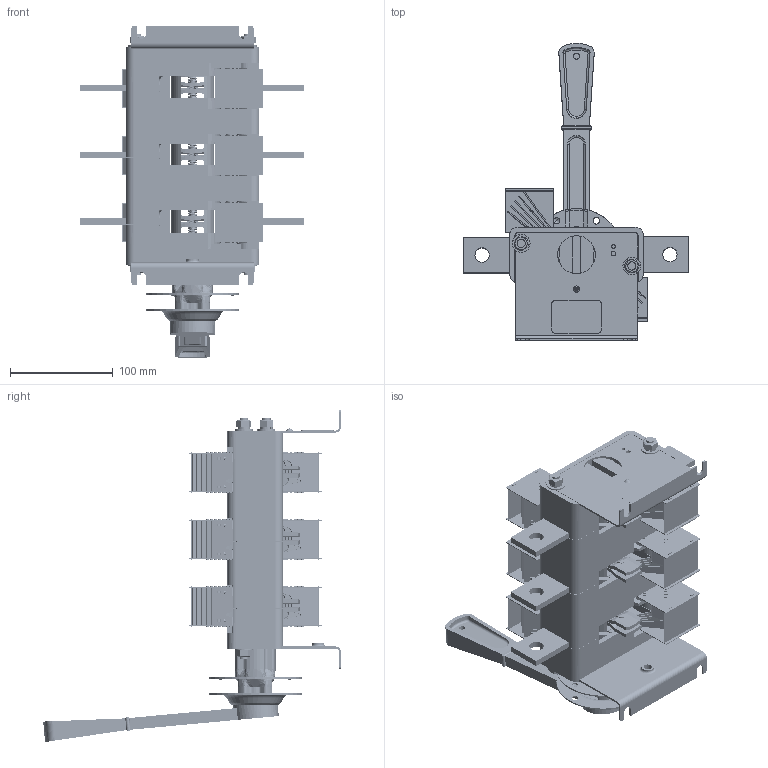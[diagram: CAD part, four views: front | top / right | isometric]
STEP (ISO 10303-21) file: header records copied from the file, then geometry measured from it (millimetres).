
FILE_DESCRIPTION (( 'STEP AP214' ), '1' );
FILE_NAME ('ﾂﾐ32-39ﾔ ﾃﾆﾈﾊ.642523.009-01 (ﾂ31250-630ﾀ).STEP', '2022-07-14T13:03:04', ( '' ), ( '' ), 'SwSTEP 2.0', 'SolidWorks 2018', '' );
FILE_SCHEMA (( 'AUTOMOTIVE_DESIGN' ));
Length unit declared in the file: millimetre
Products named in the file (40): ﾘ琺矜 ﾃﾆﾈﾊ.758491.059; Êîðïóñ ñðåäíèé ÃÆÈÊ.735384.049; Ðóêîÿòêà_ÃÆÈÊ.303658.011_-01 (á¡®àª ); Òàáëè÷êà äëÿ ñáîðêè ÷èñòàÿ áîëüøàÿ; 想囫蜩磬_闷仁.745355.017; ﾐ飼璢_ﾃﾆﾈﾊ.303733.004_-01 (癸ｮ爼); ﾂ鏆鮏 ﾃﾆﾈﾊ.745485.006; 买箅赅 闷仁.713141.011; 暑痫篑 镳噔 闷仁.735384.048; Áîêîâèíà ëåâàÿ ÃÆÈÊ.735224.029_-01(à¥§ì¡ ); ﾂﾐ32-39ﾔ ﾃﾆﾈﾊ.642523.009-01 (ﾂ31250-630ﾀ); 剜獒郷闷仁.758491.058; ﾘ琺矜 8 65ﾃ 016; 锐牮钽囫栩咫黖闷仁.741271.008; 噪囗弼 闷仁.712378.002_-01 (帷獱); Ãàéêà 2Ì8-6Í.5.016; 羊屙赅_闷仁.741226.004; Êîðïóñ ëåâûé ÃÆÈÊ.735384.050; ﾏ跖浯 ﾃﾆﾈﾊ.753553.013_-01 (癸ｮ爼); 想囫蜩磬_闷仁.745355.016; ﾏ跖浯_ﾃﾆﾈﾊ.753553.012_-01 (癸ｮ爼); Òàáëè÷êà äëÿ ñáîðêè ÷èñòàÿ; 殃钺郷闷仁.745326.026_-01 (帷獱); 澡犟囹铕 忄豚 闷仁.745484.008.SLDDRW; Êîíòàêò ïîäâèæíûé_ÃÆÈÊ.745355.014; ﾂ琿 ﾃﾆﾈﾊ.715274.004; Øïèëüêà Ì8 ÃÆÈÊ.758292.006; 抔樖罻; Êàìåðà äóãîãàñèòåëüíàÿ ÃÆÈÊ.686431.026_-01 (á¡®àª ); 务黖闷仁.715411.020; 想囫蜩磬_闷仁.745355.018_-01 (帷獱); Îáîëî÷êà_630À; ﾘ琺矜_ﾃﾆﾈﾊ.758491.057_-01 (癸ｮ爼); Áîêîâèíà ïðàâàÿ_ÃÆÈÊ.735224.028; Èñêðîãàñèòåëü_ÃÆÈÊ.741271.008_-01 (®â¢¥àáâ¨ï); 想囫蜩磬_闷仁.745355.015_-01 (帷獱); Êîíòàêò ïîäâèæíûé ÃÆÈÊ.685179.146; 锐牮钽囫栩咫黖闷仁.686433.004_-01 (帷獱); ﾘ琺矜 8 ﾃﾆﾈﾊ.758491.024; 澡犟囹铕_闷仁.745484.007
Assembly tree (74 placements, depth 4):
  ﾂﾐ32-39ﾔ ﾃﾆﾈﾊ.642523.009-01 (ﾂ31250-630ﾀ)
    Êîðïóñ ëåâûé ÃÆÈÊ.735384.050
    暑痫篑 镳噔 闷仁.735384.048
    Êîðïóñ ñðåäíèé ÃÆÈÊ.735384.049  x2
    ﾂ琿 ﾃﾆﾈﾊ.715274.004
    Êîíòàêò ïîäâèæíûé ÃÆÈÊ.685179.146  x3
      想囫蜩磬_闷仁.745355.016
      务黖闷仁.715411.020
      Êîíòàêò ïîäâèæíûé_ÃÆÈÊ.745355.014
      澡犟囹铕_闷仁.745484.007
      ﾏ跖浯_ﾃﾆﾈﾊ.753553.012_-01 (癸ｮ爼)
    Áîêîâèíà ëåâàÿ ÃÆÈÊ.735224.029_-01(à¥§ì¡ )
    Áîêîâèíà ïðàâàÿ_ÃÆÈÊ.735224.028
    澡犟囹铕 忄豚 闷仁.745484.008.SLDDRW  x2
    ﾏ跖浯 ﾃﾆﾈﾊ.753553.013_-01 (癸ｮ爼)  x2
    Øïèëüêà Ì8 ÃÆÈÊ.758292.006  x2
    Ãàéêà 2Ì8-6Í.5.016  x4
    ﾘ琺矜 8 65ﾃ 016  x2
    Êàìåðà äóãîãàñèòåëüíàÿ ÃÆÈÊ.686431.026_-01 (á¡®àª )  x6
      想囫蜩磬_闷仁.745355.017
      羊屙赅_闷仁.741226.004
      锐牮钽囫栩咫黖闷仁.686433.004_-01 (帷獱)
        殃钺郷闷仁.745326.026_-01 (帷獱)  x2
        Èñêðîãàñèòåëü_ÃÆÈÊ.741271.008_-01 (®â¢¥àáâ¨ï)
        抔樖罻  x2
      锐牮钽囫栩咫黖闷仁.741271.008
    买箅赅 闷仁.713141.011
    ﾘ琺矜 ﾃﾆﾈﾊ.758491.059
    噪囗弼 闷仁.712378.002_-01 (帷獱)
    Ðóêîÿòêà_ÃÆÈÊ.303658.011_-01 (á¡®àª )
      ﾐ飼璢_ﾃﾆﾈﾊ.303733.004_-01 (癸ｮ爼)
        想囫蜩磬_闷仁.745355.018_-01 (帷獱)
        剜獒郷闷仁.758491.058
        想囫蜩磬_闷仁.745355.015_-01 (帷獱)
        ﾘ琺矜_ﾃﾆﾈﾊ.758491.057_-01 (癸ｮ爼)
      Îáîëî÷êà_630À
    ﾘ琺矜 8 ﾃﾆﾈﾊ.758491.024  x4
    ﾂ鏆鮏 ﾃﾆﾈﾊ.745485.006  x6
    Òàáëè÷êà äëÿ ñáîðêè ÷èñòàÿ
    Òàáëè÷êà äëÿ ñáîðêè ÷èñòàÿ áîëüøàÿ
Bounding box: 219 x 290.2 x 323.77 mm (x, y, z)
Volume: 1091403.6 mm3; surface area: 699261.4 mm2
Topology: 150 solids, 150 shells, 5085 faces, 13045 edges, 8368 vertices
Faces by surface type: plane 3483, cylinder 1298, bspline 148, cone 80, sphere 48, torus 28
Entity records: 108593 total; most frequent: CARTESIAN_POINT 67947, DIRECTION 8127, ORIENTED_EDGE 8122, EDGE_CURVE 4061, AXIS2_PLACEMENT_3D 2826, VERTEX_POINT 2640, VECTOR 2475, LINE 2475
